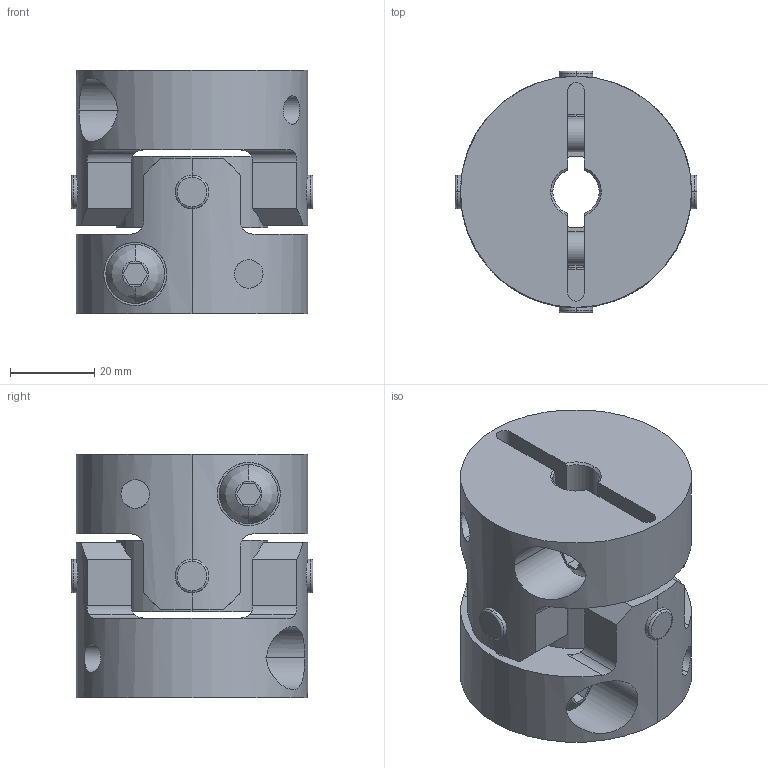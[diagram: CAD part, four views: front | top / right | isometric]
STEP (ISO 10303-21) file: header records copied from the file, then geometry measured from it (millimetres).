
FILE_DESCRIPTION((''),'2;1');
FILE_NAME('UA-55C-11×17.stp','2013-05-22T13:30:56',(''),(''),'AutoCAD STEP 2000i','AutoCAD 2000i',', , ');
FILE_SCHEMA(('CONFIG_CONTROL_DESIGN'));
Length unit declared in the file: millimetre
Products named in the file (6): UA-55C-10×10; 忣兜1; UA-5502-D10-1; BTN-M8; UA-5502-D10; UA55-SEN
Assembly tree (6 placements, depth 3):
  UA-55C-10×10
    忣兜1
    UA-5502-D10-1
      BTN-M8
    UA-5502-D10
      BTN-M8
    UA55-SEN
Bounding box: 57.55 x 57.55 x 58 mm (x, y, z)
Volume: 99352.5 mm3; surface area: 31803.4 mm2
Topology: 1 solids, 1 shells, 206 faces, 554 edges, 364 vertices
Faces by surface type: cylinder 96, plane 78, cone 16, bspline 8, torus 8
Entity records: 8383 total; most frequent: CARTESIAN_POINT 3067, ORIENTED_EDGE 1108, DIRECTION 1064, EDGE_CURVE 554, AXIS2_PLACEMENT_3D 409, VERTEX_POINT 364, VECTOR 246, LINE 246
